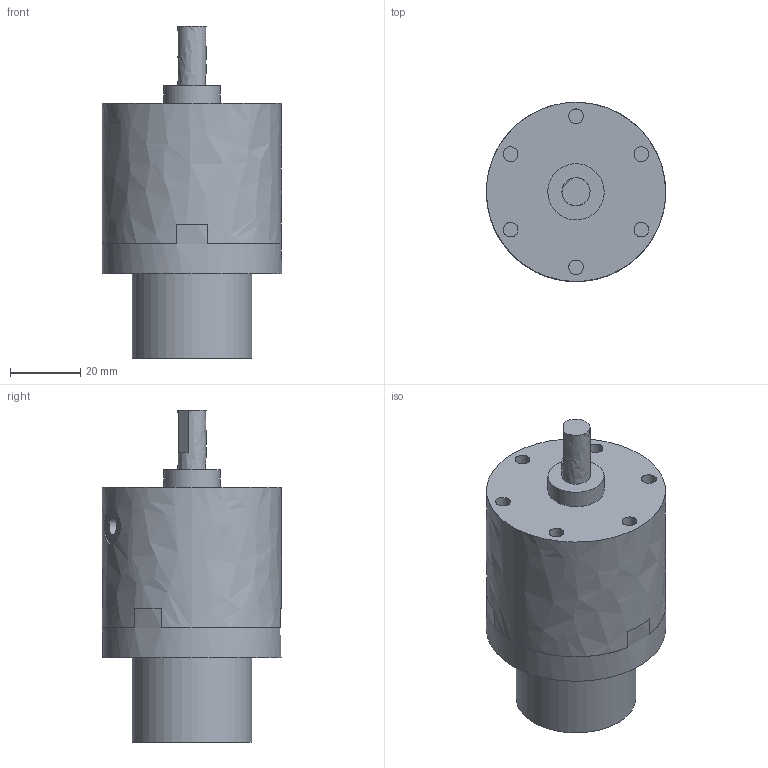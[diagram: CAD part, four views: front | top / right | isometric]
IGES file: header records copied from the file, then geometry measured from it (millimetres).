
Global section: file name: 6420_30_090_R; native system: Autodesk Inventor 2014; preprocessor: unknown; author: A. Manieri; date: 20170408.104559; units: millimetre
Bounding box: 51 x 51 x 94.5 mm (x, y, z)
Volume: 122506.6 mm3; surface area: 25809.6 mm2
Topology: 3 solids, 3 shells, 76 faces, 190 edges, 133 vertices
Faces by surface type: bspline 76
